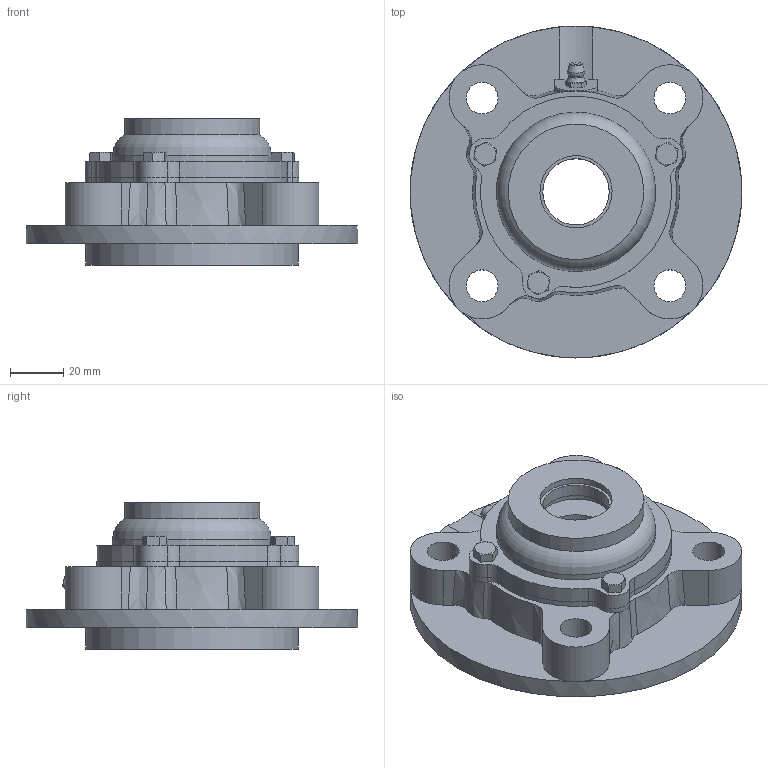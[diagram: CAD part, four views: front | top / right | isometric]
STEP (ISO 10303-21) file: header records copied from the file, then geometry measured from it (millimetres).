
FILE_DESCRIPTION((''),'2;1');
FILE_NAME('\\Ts-tgl068\j-cad-d-base\00.3DCADデータ作成フォルダ\02.フランジ形\CUKFC200\CUKFC206C+H.stp','2014-05-22T08:54:24',('btec_1106_2'),(''),'Autodesk Inventor 2012','Autodesk Inventor 2012','');
FILE_SCHEMA(('AUTOMOTIVE_DESIGN { 1 0 10303 214 1 1 1 1 }'));
Length unit declared in the file: millimetre
Products named in the file (7): CUKFC200C+H; CFC206; UK206; GU1; 206C25R; 206C25; M5X0
Assembly tree (8 placements, depth 3):
  CUKFC200C+H
    CFC206
    UK206
    GU1
    206C25R
      206C25
      M5X0  x3
Bounding box: 125 x 125 x 55 mm (x, y, z)
Volume: 229788.6 mm3; surface area: 71076 mm2
Topology: 7 solids, 7 shells, 306 faces, 771 edges, 495 vertices
Faces by surface type: plane 117, cylinder 88, cone 79, bspline 14, sphere 4, torus 4
Full cylindrical faces by diameter (mm): 4.134 x3, 5 x3, 5.359 x1, 6 x3, 6.35 x1, 12 x4, 25 x2, 27.2 x2, 40.5 x2, 51 x1, 60 x1, 60.5 x1, 64 x2, 80 x1, 125 x1
Entity records: 8591 total; most frequent: CARTESIAN_POINT 2304, ORIENTED_EDGE 1280, DIRECTION 1247, EDGE_CURVE 640, AXIS2_PLACEMENT_3D 527, VERTEX_POINT 433, EDGE_LOOP 352, FACE_OUTER_BOUND 272
